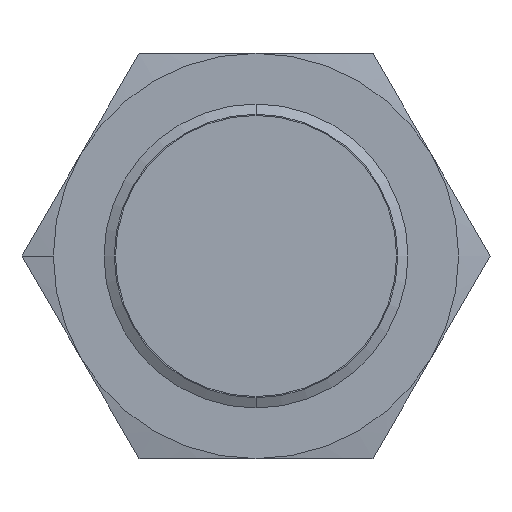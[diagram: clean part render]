
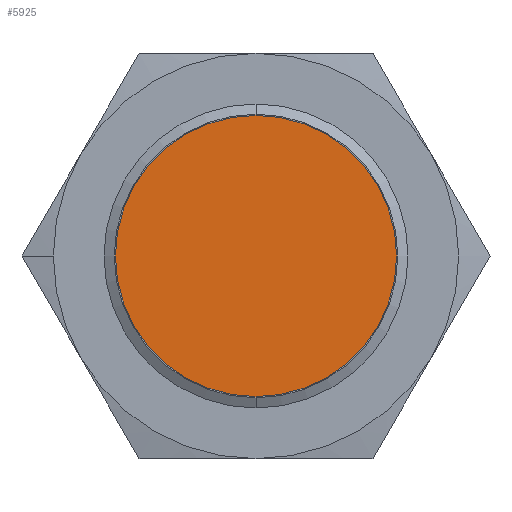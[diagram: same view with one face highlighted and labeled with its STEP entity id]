
A CAD part, left-side view. The second image highlights one B-rep face of the part: STEP entity #5925.
In plain terms, the highlighted planar face has unit normal (-1, 0, 0).
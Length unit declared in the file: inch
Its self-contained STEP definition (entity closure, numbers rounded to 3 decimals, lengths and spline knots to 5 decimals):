
#518 = CARTESIAN_POINT ( 'NONE',  ( 0., 0., 0.3275 ) ) ;
#636 = CIRCLE ( 'NONE', #637, 0.3275 ) ;
#637 = AXIS2_PLACEMENT_3D ( 'NONE', #638, #639, #640 ) ;
#638 = CARTESIAN_POINT ( 'NONE',  ( 0., 0., 0. ) ) ;
#639 = DIRECTION ( 'NONE',  ( 1., 0., 0. ) ) ;
#640 = DIRECTION ( 'NONE',  ( 0., 0., 1. ) ) ;
#1168 = CARTESIAN_POINT ( 'NONE',  ( 0., 0., -0.3275 ) ) ;
#2345 = FACE_OUTER_BOUND ( 'NONE', #5876, .T. ) ;
#2346 = PLANE ( 'NONE',  #2347 ) ;
#2347 = AXIS2_PLACEMENT_3D ( 'NONE', #2348, #2349, #2352 ) ;
#2348 = CARTESIAN_POINT ( 'NONE',  ( 0., 0., 0. ) ) ;
#2349 = DIRECTION ( 'NONE',  ( 1., 0., 0. ) ) ;
#2352 = DIRECTION ( 'NONE',  ( 0., 0., -1. ) ) ;
#2517 = CIRCLE ( 'NONE', #2518, 0.3275 ) ;
#2518 = AXIS2_PLACEMENT_3D ( 'NONE', #2519, #2520, #2521 ) ;
#2519 = CARTESIAN_POINT ( 'NONE',  ( 0., 0., 0. ) ) ;
#2520 = DIRECTION ( 'NONE',  ( 1., 0., 0. ) ) ;
#2521 = DIRECTION ( 'NONE',  ( 0., 0., 1. ) ) ;
#4111 = VERTEX_POINT ( 'NONE', #518 ) ;
#4143 = EDGE_CURVE ( 'NONE', #4270, #4111, #636, .T. ) ;
#4270 = VERTEX_POINT ( 'NONE', #1168 ) ;
#5700 = ORIENTED_EDGE ( 'NONE', *, *, #4143, .F. ) ;
#5767 = ORIENTED_EDGE ( 'NONE', *, *, #6310, .F. ) ;
#5876 = EDGE_LOOP ( 'NONE', ( #5767, #5700 ) ) ;
#5925 = ADVANCED_FACE ( 'NONE', ( #2345 ), #2346, .F. ) ;
#6310 = EDGE_CURVE ( 'NONE', #4111, #4270, #2517, .T. ) ;
